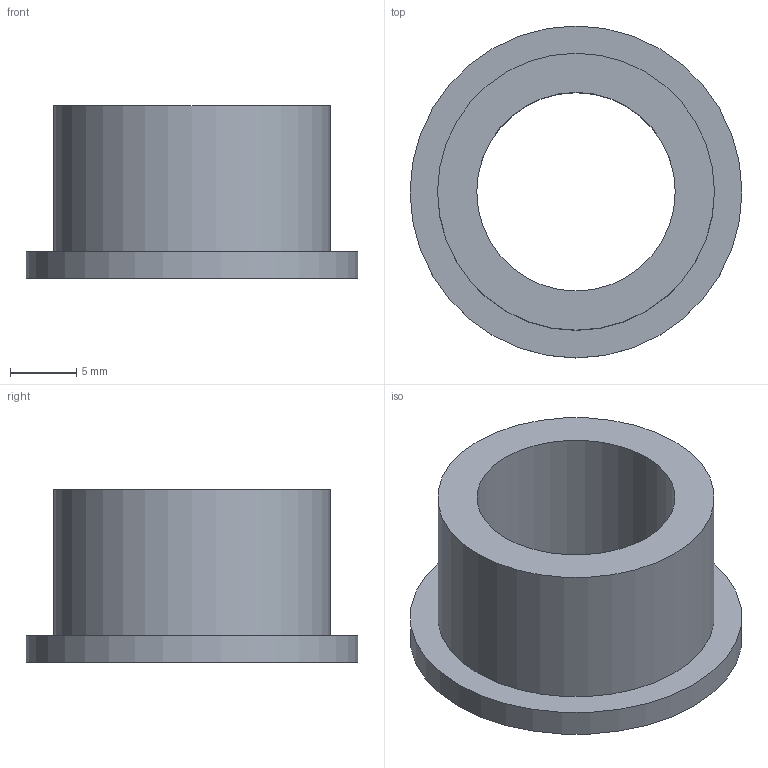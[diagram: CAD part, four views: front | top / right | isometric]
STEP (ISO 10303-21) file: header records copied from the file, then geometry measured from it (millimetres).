
FILE_DESCRIPTION (( 'STEP AP214' ), '1' );
FILE_NAME ('JF-20403-0008.STEP', '2018-04-18T14:43:14', ( '' ), ( '' ), 'SwSTEP 2.0', 'SolidWorks 2017', '' );
FILE_SCHEMA (( 'AUTOMOTIVE_DESIGN' ));
Length unit declared in the file: millimetre
Products named in the file (1): JF-20403-0008
Bounding box: 25 x 25 x 13 mm (x, y, z)
Volume: 2456.8 mm3; surface area: 2119 mm2
Topology: 1 solids, 1 shells, 9 faces, 14 edges, 9 vertices
Faces by surface type: plane 4, cylinder 3, cone 2
Full cylindrical faces by diameter (mm): 14.95 x1, 20.854 x1, 25 x1
Entity records: 222 total; most frequent: DIRECTION 38, CARTESIAN_POINT 28, AXIS2_PLACEMENT_3D 19, EDGE_LOOP 18, ORIENTED_EDGE 18, FACE_OUTER_BOUND 12, EDGE_CURVE 9, CIRCLE 9
